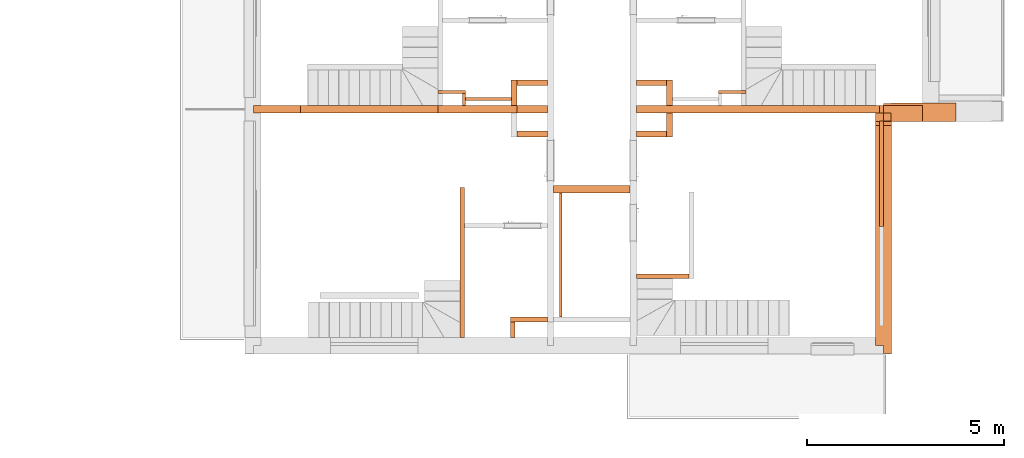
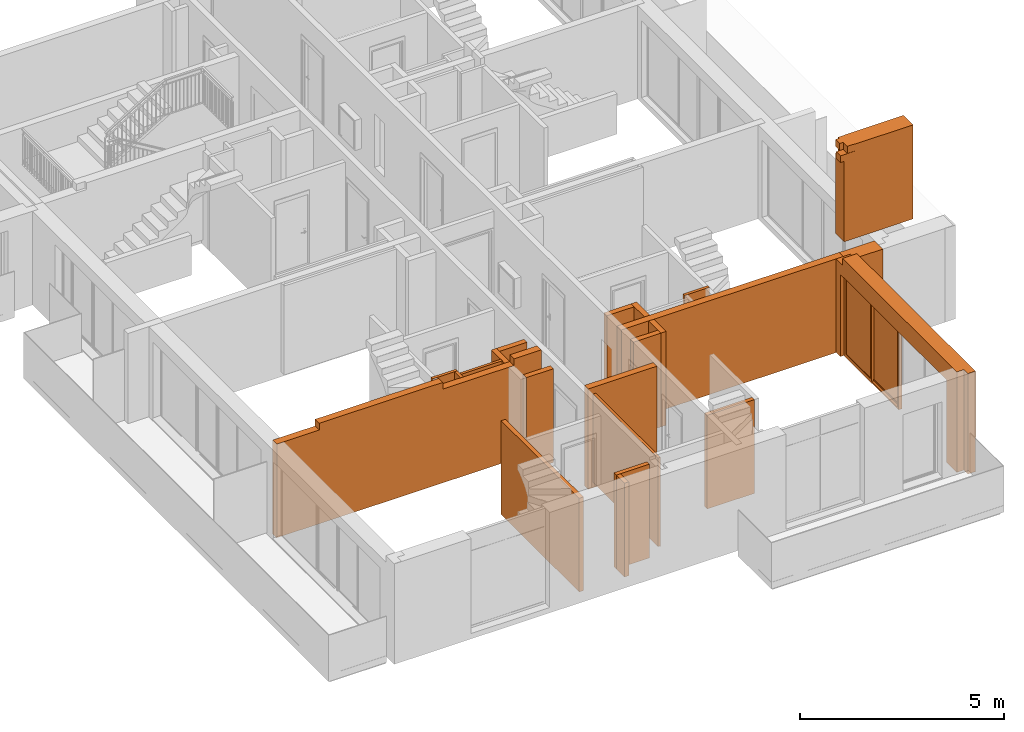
# One storey, part 58 of 61: 23 proxies, 2 openings.
"""IFC2X3 building model written with IfcOpenShell, lengths in millimetres."""

import ifcopenshell
import ifcopenshell.guid

model = None  # the IFC model being written
_history = None  # IfcOwnerHistory: only IFC2X3 demands one
_inside = {}  # id of a spatial element -> (the spatial element, [elements in it])
_under = {}  # id of a project, library or spatial element -> (it, [spatial elements below it])
_declared = {}  # id of a project -> (the project, [libraries it declares])
_typed = {}  # id of a type object -> (the type object, [elements of that type])
_made_of = {}  # id of a material, layer set ... -> (it, [elements and type objects made of it])


def new_model(schema):
    """Start an empty IFC model of exactly this schema.

    Asked for "IFC4X3", IfcOpenShell would pick the latest addendum, in which some entities
    have other attributes; the version numbers below select the first issue.
    IFC2X3 requires an IfcOwnerHistory on every rooted entity: one is made here for all.
    """
    global model, _history
    if schema == "IFC4X3":
        model = ifcopenshell.file(schema_version=(4, 3, 0, 0))
    else:
        model = ifcopenshell.file(schema=schema)
    _inside.clear()
    _under.clear()
    _declared.clear()
    _typed.clear()
    _made_of.clear()
    _history = None
    if model.schema == "IFC2X3":
        org = make("IfcOrganization", Name="unknown")
        user = make(
            "IfcPersonAndOrganization",
            ThePerson=make("IfcPerson", FamilyName="unknown"),
            TheOrganization=org,
        )
        app = make(
            "IfcApplication",
            ApplicationDeveloper=org,
            Version="unknown",
            ApplicationFullName="unknown",
            ApplicationIdentifier="unknown",
        )
        _history = make(
            "IfcOwnerHistory",
            OwningUser=user,
            OwningApplication=app,
            ChangeAction="ADDED",
            CreationDate=0,
        )
    return model


def make(cls, **values):
    """One entity of the class cls with the attributes given. An attribute that is None is left unset."""
    return model.create_entity(
        cls, **{name: value for name, value in values.items() if value is not None}
    )


def entity(cls, *values):
    """Any entity or typed value of the class cls, its attributes in the order of the schema. None: left unset."""
    e = model.create_entity(cls)
    for i, value in enumerate(values):
        if value is not None:
            e[i] = value
    return e


def rooted(cls, **values):
    """An entity with a GlobalId (a new one), such as an element, a storey or a relation."""
    return make(cls, GlobalId=ifcopenshell.guid.new(), OwnerHistory=_history, **values)


def si_unit(unit_type, name, prefix=None):
    """IfcSIUnit, for example si_unit("LENGTHUNIT", "METRE", prefix="MILLI")."""
    return make("IfcSIUnit", UnitType=unit_type, Prefix=prefix, Name=name)


def converted_unit(unit_type, name, factor, base, dimensions=None, offset=None):
    """IfcConversionBasedUnit, such as the inch: factor (a typed value) times the base unit."""
    return make(
        "IfcConversionBasedUnit"
        if offset is None
        else "IfcConversionBasedUnitWithOffset",
        ConversionOffset=offset,
        Dimensions=None
        if dimensions is None
        else entity("IfcDimensionalExponents", *dimensions),
        UnitType=unit_type,
        Name=name,
        ConversionFactor=make(
            "IfcMeasureWithUnit", ValueComponent=factor, UnitComponent=base
        ),
    )


def derived_unit(unit_type, elements):
    """IfcDerivedUnit: a product of units, each with its exponent."""
    return make(
        "IfcDerivedUnit",
        Elements=[
            make("IfcDerivedUnitElement", Unit=unit, Exponent=power)
            for unit, power in elements
        ],
        UnitType=unit_type,
    )


def money_unit(currency):
    """IfcMonetaryUnit."""
    return make("IfcMonetaryUnit", Currency=currency)


def assignment(units):
    """IfcUnitAssignment: the units of a project."""
    return None if units is None else make("IfcUnitAssignment", Units=units)


def point(xyz):
    """IfcCartesianPoint."""
    return None if xyz is None else make("IfcCartesianPoint", Coordinates=xyz)


def direction(xyz):
    """IfcDirection."""
    return None if xyz is None else make("IfcDirection", DirectionRatios=xyz)


def frame(location, z_axis=None, x_axis=None):
    """IfcAxis2Placement3D, a coordinate frame: its origin and axes. An axis left out is left unset."""
    return make(
        "IfcAxis2Placement3D",
        Location=point(location),
        Axis=direction(z_axis),
        RefDirection=direction(x_axis),
    )


def frame_2d(location, x_axis=None):
    """IfcAxis2Placement2D, a coordinate frame in the plane: its origin and x axis."""
    return make(
        "IfcAxis2Placement2D", Location=point(location), RefDirection=direction(x_axis)
    )


def origin_with_axes():
    """The frame at (0, 0, 0) with the z axis (0, 0, 1) and the x axis (1, 0, 0) written out."""
    return frame((0.0, 0.0, 0.0), z_axis=(0.0, 0.0, 1.0), x_axis=(1.0, 0.0, 0.0))


def origin_2d_with_axis():
    """The frame at (0, 0) in the plane with the x axis (1, 0) written out."""
    return frame_2d((0.0, 0.0), x_axis=(1.0, 0.0))


def place(relative_to, where):
    """IfcLocalPlacement: puts the frame where relative to a parent placement (None: the world)."""
    return make(
        "IfcLocalPlacement", PlacementRelTo=relative_to, RelativePlacement=where
    )


def context(
    kind, dimensions, precision=None, world=None, true_north=None, identifier=None
):
    """IfcGeometricRepresentationContext, for example the 3D "Model" context."""
    return make(
        "IfcGeometricRepresentationContext",
        ContextIdentifier=identifier,
        ContextType=kind,
        CoordinateSpaceDimension=dimensions,
        Precision=precision,
        WorldCoordinateSystem=world,
        TrueNorth=true_north,
    )


def subcontext(parent, identifier, kind, view, scale=None):
    """IfcGeometricRepresentationSubContext, for example "Body" below "Model"."""
    return make(
        "IfcGeometricRepresentationSubContext",
        ContextIdentifier=identifier,
        ContextType=kind,
        ParentContext=parent,
        TargetScale=scale,
        TargetView=view,
    )


def project(units=None, contexts=None):
    """IfcProject with its units and contexts."""
    return rooted(
        "IfcProject",
        Name="project",
        RepresentationContexts=contexts,
        UnitsInContext=assignment(units),
    )


def spatial(cls, under=None, at=None, **own):
    """A site, building, storey or space (cls), placed at a placement, below another one or the project."""
    s = rooted(cls, ObjectPlacement=at, **own)
    if under is not None:
        _under.setdefault(under.id(), (under, []))[1].append(s)
    return s


def profile(cls, at=None, kind="AREA", **sizes):
    """A parametric profile (cls). Its sizes go by their IFC names, for example OverallWidth=200.0."""
    return make(cls, ProfileType=kind, Position=at, **sizes)


def rectangle(**sizes):
    """IfcRectangleProfileDef."""
    return profile("IfcRectangleProfileDef", **sizes)


def extrude(swept, where, along, depth):
    """IfcExtrudedAreaSolid: the profile swept, set in the frame where, extruded along a direction by depth."""
    return make(
        "IfcExtrudedAreaSolid",
        SweptArea=swept,
        Position=where,
        ExtrudedDirection=direction(along),
        Depth=depth,
    )


def faces_of(points, faces, orient=None, outer=None):
    """IfcFace entities. A face is a list of loops; a loop is a list of indices into points, from 0.

    orient and outer hold one flag for each loop. By default every Orientation is true, the
    first loop of a face is its IfcFaceOuterBound and the others are IfcFaceBound.
    """
    made = []
    for i, loops in enumerate(faces):
        bounds = []
        for j, loop in enumerate(loops):
            is_outer = j == 0 if outer is None else outer[i][j]
            bounds.append(
                make(
                    "IfcFaceOuterBound" if is_outer else "IfcFaceBound",
                    Bound=make("IfcPolyLoop", Polygon=[points[k] for k in loop]),
                    Orientation=True if orient is None else orient[i][j],
                )
            )
        made.append(make("IfcFace", Bounds=bounds))
    return made


def open_shell(faces, orient=None, outer=None):
    """The faces of one IfcOpenShell. surface_model builds it on its shared points."""
    return ("IfcOpenShell", faces, orient, outer)


def faceted_brep(points, faces, orient=None, outer=None, voids=None):
    """IfcFacetedBrep: a solid bounded by flat faces; with voids (closed shells), ...WithVoids."""
    shared = [point(p) for p in points]
    hull = make("IfcClosedShell", CfsFaces=faces_of(shared, faces, orient, outer))
    if voids is None:
        return make("IfcFacetedBrep", Outer=hull)
    return make(
        "IfcFacetedBrepWithVoids",
        Outer=hull,
        Voids=[
            make(cls, CfsFaces=faces_of(shared, fs, o, b)) for cls, fs, o, b in voids
        ],
    )


def surface_model(cls, points, shells):
    """IfcFaceBasedSurfaceModel or IfcShellBasedSurfaceModel (cls): surfaces that need not close."""
    shared = [point(p) for p in points]
    made = [make(c, CfsFaces=faces_of(shared, fs, o, b)) for c, fs, o, b in shells]
    if cls == "IfcFaceBasedSurfaceModel":
        return make(cls, FbsmFaces=made)
    return make(cls, SbsmBoundary=made)


def shape(context_of_items, identifier, shape_type, items):
    """IfcShapeRepresentation: the items that make up one representation, for example the "Body"."""
    return make(
        "IfcShapeRepresentation",
        ContextOfItems=context_of_items,
        RepresentationIdentifier=identifier,
        RepresentationType=shape_type,
        Items=items,
    )


def material(Name=None, Category=None):
    """IfcMaterial."""
    return make("IfcMaterial", Name=Name, Category=Category)


def material_list(materials):
    """IfcMaterialList."""
    return make("IfcMaterialList", Materials=materials)


def made_of(thing, what):
    """Note that an element or type object is made of a material, layer set ...; save() writes the relation."""
    if what is not None:
        _made_of.setdefault(what.id(), (what, []))[1].append(thing)
    return thing


def type_object(cls, material=None, **own):
    """A type object (cls), such as IfcWallType, which elements share."""
    return made_of(rooted(cls, **own), material)


def element(
    cls,
    number,
    at=None,
    inside=None,
    cuts=None,
    type_object=None,
    material=None,
    context=None,
    identifier="Body",
    shape_type=None,
    held_by="IfcProductDefinitionShape",
    body=None,
    shapes=None,
    **own,
):
    """One element of the class cls, such as IfcWall. Its Tag is "e" and its number.

    at: its placement. inside: the storey or other place that contains it. cuts: it is an
    opening in that element (IfcRelVoidsElement). A single representation is given by context,
    identifier, shape_type and body (its items); several are given by shapes. held_by: the class
    of the entity that holds the representations. save() writes the other relations.
    """
    e = rooted(cls, Tag="e%d" % number, ObjectPlacement=at, **own)
    if body is not None:
        shapes = [shape(context, identifier, shape_type, body)]
    if shapes is not None:
        e.Representation = make(held_by, Representations=shapes)
    if inside is not None:
        _inside.setdefault(inside.id(), (inside, []))[1].append(e)
    if cuts is not None:
        rooted(
            "IfcRelVoidsElement", RelatingBuildingElement=cuts, RelatedOpeningElement=e
        )
    if type_object is not None:
        _typed.setdefault(type_object.id(), (type_object, []))[1].append(e)
    return made_of(e, material)


def fill(opening, filler):
    """IfcRelFillsElement: the door or window that sits in an opening."""
    return rooted(
        "IfcRelFillsElement",
        RelatingOpeningElement=opening,
        RelatedBuildingElement=filler,
    )


def aggregate(whole, parts):
    """IfcRelAggregates: a whole, such as a stair, and the parts it consists of."""
    return rooted("IfcRelAggregates", RelatingObject=whole, RelatedObjects=parts)


def save(model, path):
    """Write the relations noted so far, then the file.

    IfcRelAggregates (storeys below a building ...), IfcRelContainedInSpatialStructure (elements
    in a storey), IfcRelDefinesByType, IfcRelAssociatesMaterial and IfcRelDeclares: one each for
    every whole, place, type object, material and project.
    """
    for whole, parts in _under.values():
        aggregate(whole, parts)
    for where, things in _inside.values():
        rooted(
            "IfcRelContainedInSpatialStructure",
            RelatedElements=things,
            RelatingStructure=where,
        )
    for kind, things in _typed.values():
        rooted("IfcRelDefinesByType", RelatedObjects=things, RelatingType=kind)
    for what, things in _made_of.values():
        rooted("IfcRelAssociatesMaterial", RelatedObjects=things, RelatingMaterial=what)
    for by, libraries in _declared.values():
        rooted("IfcRelDeclares", RelatingContext=by, RelatedDefinitions=libraries)
    model.write(path)


model = new_model("IFC2X3")

# Units and contexts
model_context = context("Model", 3, precision=0.01, world=origin_with_axes(), true_north=direction((0.34421633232, 0.938890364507)))
body_context = subcontext(model_context, "Body", "Model", "MODEL_VIEW")
ifc_project = project(units=[si_unit("LENGTHUNIT", "METRE", prefix="MILLI"), si_unit("AREAUNIT", "SQUARE_METRE"), si_unit("VOLUMEUNIT", "CUBIC_METRE"), converted_unit("PLANEANGLEUNIT", "DEGREE", entity("IfcPlaneAngleMeasure", 0.0174532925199), si_unit("PLANEANGLEUNIT", "RADIAN"), dimensions=[0, 0, 0, 0, 0, 0, 0]), si_unit("SOLIDANGLEUNIT", "STERADIAN"), money_unit("USD"), converted_unit("TIMEUNIT", "Year", entity("IfcTimeMeasure", 31556926.0), si_unit("TIMEUNIT", "SECOND"), dimensions=[0, 0, 1, 0, 0, 0, 0]), si_unit("MASSUNIT", "GRAM", prefix="KILO"), si_unit("THERMODYNAMICTEMPERATUREUNIT", "DEGREE_CELSIUS"), si_unit("LUMINOUSINTENSITYUNIT", "LUMEN"), si_unit("ENERGYUNIT", "JOULE", prefix="MEGA"), derived_unit("THERMALCONDUCTANCEUNIT", [(si_unit("POWERUNIT", "WATT"), 1), (si_unit("LENGTHUNIT", "METRE"), -1), (si_unit("THERMODYNAMICTEMPERATUREUNIT", "KELVIN"), -1)]), derived_unit("SPECIFICHEATCAPACITYUNIT", [(si_unit("ENERGYUNIT", "JOULE"), 1), (si_unit("MASSUNIT", "GRAM", prefix="KILO"), -1), (si_unit("THERMODYNAMICTEMPERATUREUNIT", "KELVIN"), -1)]), derived_unit("MASSDENSITYUNIT", [(si_unit("MASSUNIT", "GRAM", prefix="KILO"), 1), (si_unit("VOLUMEUNIT", "CUBIC_METRE"), -1)])], contexts=[model_context])

# Site, building, storey
site_placement = place(None, origin_with_axes())
site = spatial("IfcSite", under=ifc_project, at=site_placement, Name="USTRONIE MORSKIE", CompositionType="ELEMENT")
building_placement = place(site_placement, origin_with_axes())
building = spatial("IfcBuilding", under=site, at=building_placement, Name="Budynek", CompositionType="ELEMENT")
storey_placement = place(building_placement, frame((0.0, 0.0, 13000.0), z_axis=(0.0, 0.0, 1.0), x_axis=(1.0, 0.0, 0.0)))
storey = spatial("IfcBuildingStorey", under=building, at=storey_placement, Name="PIĘTRO 4", CompositionType="ELEMENT", Elevation=13000.0)

# Proxies
ifc_material_1 = material(Name="Bloczki silikatowe")
building_element_proxy_type_1 = type_object("IfcBuildingElementProxyType", Name="Bloczki silikatowe 120", PredefinedType="NOTDEFINED")
proxy_1_placement = place(storey_placement, frame((415117.920919, 709701.199036, -160.0), z_axis=(0.0, 0.0, 1.0), x_axis=(0.0, -1.0, 0.0)))
element("IfcBuildingElementProxy", 1, at=proxy_1_placement, inside=storey, type_object=building_element_proxy_type_1, material=ifc_material_1, Name="SW-04", context=body_context, shape_type="Brep", body=[
    faceted_brep([(400.0, -120.0, 2800.0), (400.0, 0.0, 2800.0), (0.0, 0.0, 2800.0), (0.0, -120.0, 2800.0), (400.0, -120.0, 0.0), (400.0, 0.0, 0.0), (0.0, 0.0, 0.0), (0.0, -120.0, 0.0)], [[[0, 1, 2, 3]], [[1, 0, 4, 5]], [[1, 5, 6, 2]], [[7, 3, 2, 6]], [[4, 0, 3, 7]], [[5, 4, 7, 6]]]),
])
proxy_2_placement = place(storey_placement, frame((419597.920919, 710861.199036, -160.0), z_axis=(0.0, 0.0, 1.0), x_axis=(-1.0, 0.0, 0.0)))
element("IfcBuildingElementProxy", 2, at=proxy_2_placement, inside=storey, type_object=building_element_proxy_type_1, material=ifc_material_1, Name="SW-04", context=body_context, shape_type="Brep", body=[
    faceted_brep([(1400.0, 59.9999999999, 0.0), (1400.0, -59.9999999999, 0.0), (60.0, -59.9999999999, 0.0), (60.0, 59.9999999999, 0.0), (1400.0, 59.9999999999, 2800.0), (1400.0, -59.9999999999, 2800.0), (60.0, -59.9999999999, 2800.0), (60.0, 59.9999999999, 2800.0)], [[[0, 1, 2, 3]], [[1, 0, 4, 5]], [[1, 5, 6, 2]], [[7, 3, 2, 6]], [[4, 0, 3, 7]], [[5, 4, 7, 6]]]),
])
proxy_3_placement = place(storey_placement, frame((413777.920919, 709201.199036, -160.0), z_axis=(0.0, 0.0, 1.0), x_axis=(0.0, 1.0, 0.0)))
element("IfcBuildingElementProxy", 3, at=proxy_3_placement, inside=storey, type_object=building_element_proxy_type_1, material=ifc_material_1, Name="SW-04", context=body_context, shape_type="Brep", body=[
    faceted_brep([(3919.99999956, 60.0, 0.0), (3919.99999956, 60.0, 2800.0), (3919.99999956, -60.0, 2800.0), (3919.99999956, -60.0, 0.0), (100.0, 59.9999811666, 2800.0), (1600.0000285, 59.9999811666, 2800.0), (100.0, 60.0, 0.0), (100.0, -60.0, 2800.0), (100.0, -60.0, 0.0)], [[[0, 1, 2, 3]], [[4, 5, 1, 0, 6]], [[7, 2, 1, 5, 4]], [[3, 2, 7, 8]], [[8, 6, 0, 3]], [[8, 7, 4, 6]]]),
])
proxy_4_placement = place(storey_placement, frame((416017.920919, 709701.199036, -160.0), z_axis=(0.0, 0.0, 1.0), x_axis=(-1.0, 0.0, 0.0)))
element("IfcBuildingElementProxy", 4, at=proxy_4_placement, inside=storey, type_object=building_element_proxy_type_1, material=ifc_material_1, Name="SW-04", context=body_context, shape_type="Brep", body=[
    faceted_brep([(1020.0, 0.0, 2800.0), (80.0, 0.0, 2800.0), (80.0, -120.0, 2800.0), (1020.0, -120.0, 2800.0), (1020.0, 0.0, 0.0), (80.0, 0.0, 0.0), (80.0, -120.0, 0.0), (1020.0, -120.0, 0.0)], [[[0, 1, 2, 3]], [[4, 5, 1, 0]], [[5, 6, 2, 1]], [[3, 2, 6, 7]], [[7, 4, 0, 3]], [[7, 6, 5, 4]]]),
])
ifc_material_2 = material(Name="Beton konstrukcyjny B25")
ifc_material_3 = material(Name="Wełna ELEW")
ifc_material_4 = material(Name="Tynk zewnętrzny")
ifc_material_list_1 = material_list([ifc_material_2, ifc_material_3, ifc_material_4])
building_element_proxy_type_2 = type_object("IfcBuildingElementProxyType", Name="20+20 410", PredefinedType="NOTDEFINED")
proxy_5_placement = place(storey_placement, frame((424367.920919, 715101.199036, -160.0), z_axis=(0.0, 0.0, 1.0), x_axis=(1.0, 0.0, 0.0)))
element("IfcBuildingElementProxy", 5, at=proxy_5_placement, inside=storey, type_object=building_element_proxy_type_2, material=ifc_material_list_1, Name="SZ-01", context=body_context, shape_type="Brep", body=[
    faceted_brep([(100.0, 100.0, 0.0), (100.0, 100.0, 2800.0), (1100.0, 100.0, 2799.99999792), (1100.0, 100.0, 0.0), (100.0, -100.0, 2800.0), (100.0, -100.0, 0.0), (1100.0, -100.0, 2799.99999792), (1100.0, -100.0, 0.0)], [[[0, 1, 2, 3]], [[4, 1, 0, 5]], [[1, 4, 6, 2]], [[3, 2, 6, 7]], [[5, 0, 3, 7]], [[4, 5, 7, 6]]]),
    faceted_brep([(300.0, -100.0, 0.0), (300.0, -100.0, 2800.0), (1100.0, -100.0, 2799.99999799), (1100.0, -100.0, 0.0), (300.0, -300.0, 2800.0), (300.0, -300.0, 0.0), (1100.0, -300.0, 2799.99999799), (1100.0, -300.0, 0.0)], [[[0, 1, 2, 3]], [[4, 1, 0, 5]], [[1, 4, 6, 2]], [[3, 2, 6, 7]], [[5, 0, 3, 7]], [[4, 5, 7, 6]]]),
    faceted_brep([(310.0, -300.0, 0.0), (310.0, -300.0, 2800.0), (1100.0, -300.0, 2799.99999799), (1100.0, -300.0, 0.0), (310.0, -310.0, 2800.0), (310.0, -310.0, 0.0), (1100.0, -310.0, 2799.99999799), (1100.0, -310.0, 0.0)], [[[0, 1, 2, 3]], [[4, 1, 0, 5]], [[1, 4, 6, 2]], [[3, 2, 6, 7]], [[5, 0, 3, 7]], [[4, 5, 7, 6]]]),
])

# Proxies, openings
ifc_material_list_2 = material_list([ifc_material_4, ifc_material_3, ifc_material_2])
proxy_6_placement = place(storey_placement, frame((424367.920919, 715101.199036, -160.0), z_axis=(0.0, 0.0, 1.0), x_axis=(0.0, -1.0, 0.0)))
proxy_6 = element("IfcBuildingElementProxy", 6, at=proxy_6_placement, inside=storey, type_object=building_element_proxy_type_2, material=ifc_material_list_2, Name="SZ-01", context=body_context, shape_type="Brep", body=[
    faceted_brep([(300.0, 300.0, 2800.0), (300.0, 310.0, 2800.0), (300.0, 310.0, 0.0), (300.0, 300.0, 0.0), (410.0, 310.0, 2800.0), (410.0, 300.0, 2800.0), (410.0, 310.0, 2999.99999799), (6210.0, 310.0, 2999.99999802), (6210.0, 310.0, 0.0), (6210.0, 300.0, 0.0), (6210.0, 300.0, 2999.99999802), (410.0, 300.0, 2999.99999799)], [[[0, 1, 2, 3]], [[4, 1, 0, 5]], [[4, 6, 7, 8, 2, 1]], [[3, 2, 8, 9]], [[5, 0, 3, 9, 10, 11]], [[11, 6, 4, 5]], [[6, 11, 10, 7]], [[8, 7, 10, 9]]]),
    faceted_brep([(100.0, 100.0, 0.0), (100.0, 100.0, 2800.0), (100.0, 300.0, 2800.0), (100.0, 300.0, 0.0), (410.0, 100.0, 2999.99999799), (410.0, 100.0, 2800.0), (6200.0, 100.0, 0.0), (6200.0, 100.0, 2999.99999802), (410.0, 300.0, 2800.0), (410.0, 300.0, 2999.99999799), (6200.0, 300.0, 2999.99999802), (6200.0, 300.0, 0.0)], [[[0, 1, 2, 3]], [[4, 5, 1, 0, 6, 7]], [[5, 8, 2, 1]], [[2, 8, 9, 10, 11, 3]], [[6, 0, 3, 11]], [[5, 4, 9, 8]], [[6, 11, 10, 7]], [[10, 9, 4, 7]]]),
    faceted_brep([(100.0, -100.0, 2800.0), (100.0, 100.0, 2800.0), (100.0, 100.0, 0.0), (100.0, -100.0, 0.0), (410.0, 100.0, 2800.0), (410.0, -100.0, 2800.0), (410.0, 100.0, 2999.99999799), (6000.0, 100.0, 2999.99999808), (6000.0, 100.0, 0.0), (6000.0, -100.0, 0.0), (6000.0, -100.0, 2999.99999808), (410.0, -100.0, 2999.99999799)], [[[0, 1, 2, 3]], [[4, 1, 0, 5]], [[4, 6, 7, 8, 2, 1]], [[3, 2, 8, 9]], [[5, 0, 3, 9, 10, 11]], [[11, 6, 4, 5]], [[6, 11, 10, 7]], [[8, 7, 10, 9]]]),
])
opening_1_placement = place(proxy_6_placement, frame((4240.0, 0.0, 0.0), z_axis=(0.0, 0.0, 1.0), x_axis=(1.0, 0.0, 0.0)))
element("IfcOpeningElement", 7, at=opening_1_placement, cuts=proxy_6, Name="Wz.04", context=body_context, shape_type="SweptSolid", body=[
    extrude(rectangle(XDim=2520.0, YDim=2460.0, at=origin_2d_with_axis()), frame((0.0, 0.0, 1230.0), z_axis=(0.0, 1.0, 0.0), x_axis=(1.0, 0.0, 0.0)), (0.0, 0.0, 1.0), 720.0),
    extrude(rectangle(XDim=2520.0, YDim=2460.0, at=origin_2d_with_axis()), frame((0.0, 0.0, 1230.0), z_axis=(0.0, -1.0, 0.0), x_axis=(1.0, 0.0, 0.0)), (0.0, 0.0, 1.0), 510.0),
])
opening_2_placement = place(proxy_6_placement, frame((1640.0, 0.0, 0.0), z_axis=(0.0, 0.0, 1.0), x_axis=(1.0, 0.0, 0.0)))
opening_2 = element("IfcOpeningElement", 8, at=opening_2_placement, cuts=proxy_6, Name="Wz.04", context=body_context, shape_type="SweptSolid", body=[
    extrude(rectangle(XDim=2680.0, YDim=2460.0, at=origin_2d_with_axis()), frame((0.0, 0.0, 1230.0), z_axis=(0.0, -1.0, 0.0), x_axis=(-1.0, 0.0, 0.0)), (0.0, 0.0, -1.0), 720.0),
    extrude(rectangle(XDim=2680.0, YDim=2460.0, at=origin_2d_with_axis()), frame((0.0, 0.0, 1230.0), z_axis=(0.0, 1.0, 0.0), x_axis=(-1.0, 0.0, 0.0)), (0.0, 0.0, -1.0), 510.0),
])
building_element_proxy_type_3 = type_object("IfcBuildingElementProxyType", Name="Okno przesuwne, 2-skrzydłowe 23", PredefinedType="NOTDEFINED")
proxy_7_placement = place(opening_2_placement, frame((1340.0, 0.0, 0.0), z_axis=(0.0, 0.0, 1.0), x_axis=(-1.0, 0.0, 0.0)))
proxy_7 = element("IfcBuildingElementProxy", 9, at=proxy_7_placement, inside=storey, type_object=building_element_proxy_type_3, Name="Wz.04", context=body_context, shape_type="SurfaceModel", body=[
    faceted_brep([(50.0, -100.0, 50.0), (50.0, 0.0, 50.0), (50.0, 0.0, 2410.0), (50.0, -100.0, 2410.0), (0.0, -100.0, 50.0), (0.0, 0.0, 50.0), (0.0, 0.0, 2410.0), (0.0, -100.0, 2410.0)], [[[0, 1, 2, 3]], [[4, 5, 1, 0]], [[1, 5, 6, 2]], [[3, 2, 6, 7]], [[0, 3, 7, 4]], [[7, 6, 5, 4]]]),
    faceted_brep([(2680.0, -100.0, 50.0), (2680.0, 0.0, 50.0), (2680.0, 0.0, 2410.0), (2680.0, -100.0, 2410.0), (2630.0, -100.0, 50.0), (2630.0, 0.0, 50.0), (2630.0, 0.0, 2410.0), (2630.0, -100.0, 2410.0)], [[[0, 1, 2, 3]], [[4, 5, 1, 0]], [[1, 5, 6, 2]], [[3, 2, 6, 7]], [[0, 3, 7, 4]], [[7, 6, 5, 4]]]),
    faceted_brep([(2680.0, -100.0, 50.0), (2680.0, 0.0, 50.0), (2630.0, 0.0, 50.0), (2630.0, -100.0, 50.0), (2680.0, -100.0, 0.0), (2680.0, 0.0, 0.0), (0.0, 0.0, 0.0), (0.0, 0.0, 50.0), (50.0, 0.0, 50.0), (50.0, -100.0, 50.0), (0.0, -100.0, 50.0), (0.0, -100.0, 0.0)], [[[0, 1, 2, 3]], [[4, 5, 1, 0]], [[1, 5, 6, 7, 8, 2]], [[3, 2, 8, 9]], [[0, 3, 9, 10, 11, 4]], [[11, 6, 5, 4]], [[10, 7, 6, 11]], [[9, 8, 7, 10]]]),
    faceted_brep([(2680.0, -100.0, 2460.0), (2680.0, 0.0, 2460.0), (0.0, 0.0, 2460.0), (0.0, -100.0, 2460.0), (2680.0, -100.0, 2410.0), (2680.0, 0.0, 2410.0), (2630.0, 0.0, 2410.0), (50.0, 0.0, 2410.0), (0.0, 0.0, 2410.0), (0.0, -100.0, 2410.0), (50.0, -100.0, 2410.0), (2630.0, -100.0, 2410.0)], [[[0, 1, 2, 3]], [[4, 5, 1, 0]], [[1, 5, 6, 7, 8, 2]], [[3, 2, 8, 9]], [[0, 3, 9, 10, 11, 4]], [[11, 6, 5, 4]], [[10, 7, 6, 11]], [[9, 8, 7, 10]]]),
    faceted_brep([(100.0, -100.0, 2360.0), (100.0, -50.0, 2360.0), (50.0, -50.0, 2360.0), (50.0, -100.0, 2360.0), (100.0, -100.0, 100.0), (100.0, -50.0, 100.0), (50.0, -50.0, 100.0), (50.0, -100.0, 100.0)], [[[0, 1, 2, 3]], [[4, 5, 1, 0]], [[1, 5, 6, 2]], [[3, 2, 6, 7]], [[0, 3, 7, 4]], [[7, 6, 5, 4]]]),
    faceted_brep([(1315.0, -100.0, 100.0), (1315.0, -50.0, 100.0), (1365.0, -50.0, 100.0), (1365.0, -100.0, 100.0), (1315.0, -100.0, 2360.0), (1315.0, -50.0, 2360.0), (1365.0, -50.0, 2360.0), (1365.0, -100.0, 2360.0)], [[[0, 1, 2, 3]], [[4, 5, 1, 0]], [[1, 5, 6, 2]], [[3, 2, 6, 7]], [[0, 3, 7, 4]], [[7, 6, 5, 4]]]),
    faceted_brep([(1365.0, -100.0, 50.0), (1365.0, -50.0, 50.0), (1365.0, -50.0, 100.0), (1365.0, -100.0, 100.0), (50.0, -100.0, 50.0), (50.0, -50.0, 50.0), (50.0, -50.0, 100.0), (100.0, -50.0, 100.0), (1315.0, -50.0, 100.0), (1315.0, -100.0, 100.0), (100.0, -100.0, 100.0), (50.0, -100.0, 100.0)], [[[0, 1, 2, 3]], [[4, 5, 1, 0]], [[1, 5, 6, 7, 8, 2]], [[3, 2, 8, 9]], [[0, 3, 9, 10, 11, 4]], [[11, 6, 5, 4]], [[10, 7, 6, 11]], [[9, 8, 7, 10]]]),
    faceted_brep([(50.0, -100.0, 2410.0), (50.0, -50.0, 2410.0), (50.0, -50.0, 2360.0), (50.0, -100.0, 2360.0), (1365.0, -100.0, 2410.0), (1365.0, -50.0, 2410.0), (1365.0, -50.0, 2360.0), (1315.0, -50.0, 2360.0), (100.0, -50.0, 2360.0), (100.0, -100.0, 2360.0), (1315.0, -100.0, 2360.0), (1365.0, -100.0, 2360.0)], [[[0, 1, 2, 3]], [[4, 5, 1, 0]], [[1, 5, 6, 7, 8, 2]], [[3, 2, 8, 9]], [[0, 3, 9, 10, 11, 4]], [[11, 6, 5, 4]], [[10, 7, 6, 11]], [[9, 8, 7, 10]]]),
    surface_model("IfcShellBasedSurfaceModel", [(100.0, -85.0, 100.0), (1315.0, -85.0, 100.0), (1315.0, -85.0, 2360.0), (100.0, -85.0, 2360.0)], [open_shell([[[0, 1, 2, 3]]])]),
    surface_model("IfcShellBasedSurfaceModel", [(100.0, -65.0, 100.0), (100.0, -65.0, 2360.0), (1315.0, -65.0, 2360.0), (1315.0, -65.0, 100.0)], [open_shell([[[0, 1, 2, 3]]])]),
    faceted_brep([(1365.0, -50.0, 2360.0), (1365.0, 0.0, 2360.0), (1315.0, 0.0, 2360.0), (1315.0, -50.0, 2360.0), (1365.0, -50.0, 100.0), (1365.0, 0.0, 100.0), (1315.0, 0.0, 100.0), (1315.0, -50.0, 100.0)], [[[0, 1, 2, 3]], [[4, 5, 1, 0]], [[1, 5, 6, 2]], [[3, 2, 6, 7]], [[0, 3, 7, 4]], [[7, 6, 5, 4]]]),
    faceted_brep([(2580.0, -50.0, 100.0), (2580.0, 0.0, 100.0), (2630.0, 0.0, 100.0), (2630.0, -50.0, 100.0), (2580.0, -50.0, 2360.0), (2580.0, 0.0, 2360.0), (2630.0, 0.0, 2360.0), (2630.0, -50.0, 2360.0)], [[[0, 1, 2, 3]], [[4, 5, 1, 0]], [[1, 5, 6, 2]], [[3, 2, 6, 7]], [[0, 3, 7, 4]], [[7, 6, 5, 4]]]),
    faceted_brep([(2630.0, -50.0, 50.0), (2630.0, 0.0, 50.0), (2630.0, 0.0, 100.0), (2630.0, -50.0, 100.0), (1315.0, -50.0, 50.0), (1315.0, 0.0, 50.0), (1315.0, 0.0, 100.0), (1365.0, 0.0, 100.0), (2580.0, 0.0, 100.0), (2580.0, -50.0, 100.0), (1365.0, -50.0, 100.0), (1315.0, -50.0, 100.0)], [[[0, 1, 2, 3]], [[4, 5, 1, 0]], [[1, 5, 6, 7, 8, 2]], [[3, 2, 8, 9]], [[0, 3, 9, 10, 11, 4]], [[11, 6, 5, 4]], [[10, 7, 6, 11]], [[9, 8, 7, 10]]]),
    faceted_brep([(1315.0, -50.0, 2410.0), (1315.0, 0.0, 2410.0), (1315.0, 0.0, 2360.0), (1315.0, -50.0, 2360.0), (2630.0, -50.0, 2410.0), (2630.0, 0.0, 2410.0), (2630.0, 0.0, 2360.0), (2580.0, 0.0, 2360.0), (1365.0, 0.0, 2360.0), (1365.0, -50.0, 2360.0), (2580.0, -50.0, 2360.0), (2630.0, -50.0, 2360.0)], [[[0, 1, 2, 3]], [[4, 5, 1, 0]], [[1, 5, 6, 7, 8, 2]], [[3, 2, 8, 9]], [[0, 3, 9, 10, 11, 4]], [[11, 6, 5, 4]], [[10, 7, 6, 11]], [[9, 8, 7, 10]]]),
    surface_model("IfcShellBasedSurfaceModel", [(1365.0, -35.0, 100.0), (2580.0, -35.0, 100.0), (2580.0, -35.0, 2360.0), (1365.0, -35.0, 2360.0)], [open_shell([[[0, 1, 2, 3]]])]),
    surface_model("IfcShellBasedSurfaceModel", [(1365.0, -15.0, 100.0), (1365.0, -15.0, 2360.0), (2580.0, -15.0, 2360.0), (2580.0, -15.0, 100.0)], [open_shell([[[0, 1, 2, 3]]])]),
])
fill(opening_2, proxy_7)

# Proxies
building_element_proxy_type_4 = type_object("IfcBuildingElementProxyType", Name="Bloczki silikatowe 180", PredefinedType="NOTDEFINED")
proxy_8_placement = place(storey_placement, frame((416017.920919, 713071.199036, -160.0), z_axis=(0.0, 0.0, 1.0), x_axis=(1.0, 0.0, 0.0)))
element("IfcBuildingElementProxy", 10, at=proxy_8_placement, inside=storey, type_object=building_element_proxy_type_4, material=ifc_material_1, Name="SW-02", context=body_context, shape_type="Brep", body=[
    faceted_brep([(2020.0, 90.0, 0.0), (80.0000000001, 90.0, 0.0), (80.0000000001, 90.0, 3000.0), (2020.0, 90.0, 3000.0), (2020.0, -90.0, 0.0), (80.0000000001, -90.0, 0.0), (80.0000000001, -90.0, 3000.0), (2020.0, -90.0, 3000.0)], [[[0, 1, 2, 3]], [[4, 5, 1, 0]], [[2, 1, 5, 6]], [[3, 2, 6, 7]], [[4, 0, 3, 7]], [[6, 5, 4, 7]]]),
])
ifc_material_5 = material(Name="-Pustka powietrzna")
ifc_material_6 = material(Name="Płyta GK")
ifc_material_list_3 = material_list([ifc_material_5, ifc_material_6, ifc_material_6])
building_element_proxy_type_5 = type_object("IfcBuildingElementProxyType", Name="330-SD GK 2-warstwy 75", PredefinedType="NOTDEFINED")
proxy_9_placement = place(storey_placement, frame((415027.920919, 715371.197725, -180.0), z_axis=(0.0, 0.0, 1.0), x_axis=(-1.0, 0.0, 0.0)))
element("IfcBuildingElementProxy", 11, at=proxy_9_placement, inside=storey, type_object=building_element_proxy_type_5, material=ifc_material_list_3, Name="Ściana-009", context=body_context, shape_type="Brep", body=[
    faceted_brep([(0.0, 50.0, 180.0), (0.0, 0.0, 180.0), (0.0, 0.0, 2820.0), (0.0, 50.0, 2820.0), (1170.0, 0.0, 180.0), (1170.0, 50.0, 180.0), (1170.0, 0.0, 2820.0), (1170.0, 50.0, 2820.0)], [[[0, 1, 2, 3]], [[4, 1, 0, 5]], [[1, 4, 6, 2]], [[2, 6, 7, 3]], [[5, 0, 3, 7]], [[4, 5, 7, 6]]]),
    faceted_brep([(0.0, 0.0, 165.0), (0.0, -12.5, 165.0), (0.0, -12.5, 2820.0), (0.0, 0.0, 2820.0), (1170.0, -12.5, 165.0), (1170.0, 0.0, 165.0), (1170.0, -12.5, 2820.0), (1170.0, 0.0, 2820.0)], [[[0, 1, 2, 3]], [[4, 1, 0, 5]], [[1, 4, 6, 2]], [[2, 6, 7, 3]], [[5, 0, 3, 7]], [[4, 5, 7, 6]]]),
    faceted_brep([(0.0, -12.5, 165.0), (0.0, -25.0, 165.0), (0.0, -25.0, 2820.0), (0.0, -12.5, 2820.0), (1170.0, -25.0, 165.0), (1170.0, -12.5, 165.0), (1170.0, -25.0, 2820.0), (1170.0, -12.5, 2820.0)], [[[0, 1, 2, 3]], [[4, 1, 0, 5]], [[1, 4, 6, 2]], [[2, 6, 7, 3]], [[5, 0, 3, 7]], [[4, 5, 7, 6]]]),
])
ifc_material_list_4 = material_list([ifc_material_6, ifc_material_6, ifc_material_5])
proxy_10_placement = place(storey_placement, frame((416262.920919, 713071.199036, -160.0), z_axis=(0.0, 0.0, 1.0), x_axis=(0.0, -1.0, 0.0)))
element("IfcBuildingElementProxy", 12, at=proxy_10_placement, inside=storey, type_object=building_element_proxy_type_5, material=ifc_material_list_4, Name="Ściana-009", context=body_context, shape_type="Brep", body=[
    faceted_brep([(3249.99999956, 50.0, 145.0), (90.0, 50.0, 145.0), (90.0, 50.0, 2800.0), (3249.99999956, 50.0, 2800.0), (90.0, 37.5, 145.0), (3249.99999956, 37.5, 145.0), (90.0, 37.5, 2800.0), (3249.99999956, 37.5, 2800.0)], [[[0, 1, 2, 3]], [[4, 1, 0, 5]], [[1, 4, 6, 2]], [[7, 3, 2, 6]], [[5, 0, 3, 7]], [[4, 5, 7, 6]]]),
    faceted_brep([(3249.99999956, 37.5, 145.0), (90.0, 37.5, 145.0), (90.0, 37.5, 2800.0), (3249.99999956, 37.5, 2800.0), (90.0, 25.0, 145.0), (3249.99999956, 25.0, 145.0), (90.0, 25.0, 2800.0), (3249.99999956, 25.0, 2800.0)], [[[0, 1, 2, 3]], [[4, 1, 0, 5]], [[1, 4, 6, 2]], [[7, 3, 2, 6]], [[5, 0, 3, 7]], [[4, 5, 7, 6]]]),
    faceted_brep([(3249.99999956, 25.0, 160.0), (90.0, 25.0, 160.0), (90.0, 25.0, 2800.0), (3249.99999956, 25.0, 2800.0), (90.0, -25.0, 160.0), (3249.99999956, -25.0, 160.0), (90.0, -25.0, 2800.0), (3249.99999956, -25.0, 2800.0)], [[[0, 1, 2, 3]], [[4, 1, 0, 5]], [[1, 4, 6, 2]], [[7, 3, 2, 6]], [[5, 0, 3, 7]], [[4, 5, 7, 6]]]),
])
building_element_proxy_type_6 = type_object("IfcBuildingElementProxyType", Name="Bloczki silikatowe 80", PredefinedType="NOTDEFINED")
proxy_11_placement = place(storey_placement, frame((413817.920919, 715101.199027, -160.0), z_axis=(0.0, 0.0, 1.0), x_axis=(0.0, 1.0, 0.0)))
element("IfcBuildingElementProxy", 13, at=proxy_11_placement, inside=storey, type_object=building_element_proxy_type_6, material=ifc_material_1, Name="Ściana-010", context=body_context, shape_type="Brep", body=[
    faceted_brep([(400.000454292, 40.0, 0.0), (400.000454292, -40.0, 0.0), (100.000000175, -40.0, 0.0), (99.9999998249, 40.0, 0.0), (400.000454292, 40.0, 2800.0), (400.000454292, -40.0, 2800.0), (100.000000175, -40.0, 2800.0), (99.9999998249, 40.0, 2800.0)], [[[0, 1, 2, 3]], [[1, 0, 4, 5]], [[1, 5, 6, 2]], [[7, 3, 2, 6]], [[4, 0, 3, 7]], [[5, 4, 7, 6]]]),
])
proxy_12_placement = place(storey_placement, frame((413217.920919, 715541.199481, -160.0), z_axis=(0.0, 0.0, 1.0), x_axis=(1.0, 0.0, 0.0)))
element("IfcBuildingElementProxy", 14, at=proxy_12_placement, inside=storey, type_object=building_element_proxy_type_6, material=ifc_material_1, Name="Ściana-009", context=body_context, shape_type="Brep", body=[
    faceted_brep([(640.0, 40.0, 0.0), (640.0, -40.0, 0.0), (-60.0, -40.0, 0.0), (-60.0, 40.0, 0.0), (640.0, 40.0, 2800.0), (640.0, -40.0, 2800.0), (-60.0, -40.0, 2800.0), (-60.0, 40.0, 2800.0)], [[[0, 1, 2, 3]], [[1, 0, 4, 5]], [[1, 5, 6, 2]], [[7, 3, 2, 6]], [[4, 0, 3, 7]], [[5, 4, 7, 6]]]),
])
proxy_13_placement = place(storey_placement, frame((420917.920919, 715541.199481, -160.0), z_axis=(0.0, 0.0, 1.0), x_axis=(-1.0, 0.0, 0.0)))
element("IfcBuildingElementProxy", 15, at=proxy_13_placement, inside=storey, type_object=building_element_proxy_type_6, material=ifc_material_1, Name="Ściana-009", context=body_context, shape_type="Brep", body=[
    faceted_brep([(640.0, -40.0, 2800.0), (640.0, 40.0, 2800.0), (-60.0, 40.0, 2800.0), (-60.0, -40.0, 2800.0), (640.0, -40.0, 0.0), (640.0, 40.0, 0.0), (-60.0, 40.0, 0.0), (-60.0, -40.0, 0.0)], [[[0, 1, 2, 3]], [[1, 0, 4, 5]], [[1, 5, 6, 2]], [[7, 3, 2, 6]], [[4, 0, 3, 7]], [[5, 4, 7, 6]]]),
])
building_element_proxy_type_7 = type_object("IfcBuildingElementProxyType", Name="Bloczki silikatowe 150", PredefinedType="NOTDEFINED")
proxy_14_placement = place(storey_placement, frame((419042.92182, 715101.197938, -160.0), z_axis=(0.0, 0.0, 1.0), x_axis=(0.0, -1.0, 0.0)))
element("IfcBuildingElementProxy", 16, at=proxy_14_placement, inside=storey, type_object=building_element_proxy_type_7, material=ifc_material_1, Name="SW-03", context=body_context, shape_type="Brep", body=[
    faceted_brep([(700.000879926, 75.0, 0.0), (700.000879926, -75.0, 0.0), (99.9989021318, -75.0, 0.0), (99.9989021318, 75.0, 0.0), (700.000879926, 75.0, 2800.0), (700.000879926, -75.0, 2800.0), (99.9989021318, -75.0, 2800.0), (99.9989021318, 75.0, 2800.0)], [[[0, 1, 2, 3]], [[1, 0, 4, 5]], [[1, 5, 6, 2]], [[7, 3, 2, 6]], [[4, 0, 3, 7]], [[5, 4, 7, 6]]]),
])
proxy_15_placement = place(storey_placement, frame((415092.920018, 714476.197053, -160.0), z_axis=(0.0, 0.0, 1.0), x_axis=(1.0, 0.0, 0.0)))
element("IfcBuildingElementProxy", 17, at=proxy_15_placement, inside=storey, type_object=building_element_proxy_type_7, material=ifc_material_1, Name="Ściana-009", context=body_context, shape_type="Brep", body=[
    faceted_brep([(845.00090117, -75.0, 2800.0), (845.00090117, 75.0, 2800.0), (75.0, 75.0, 2800.0), (75.0, -75.0, 2800.0), (845.00090117, -75.0, 0.0), (845.00090117, 75.0, 0.0), (75.0, 75.0, 0.0), (75.0, -75.0, 0.0)], [[[0, 1, 2, 3]], [[1, 0, 4, 5]], [[1, 5, 6, 2]], [[7, 3, 2, 6]], [[4, 0, 3, 7]], [[5, 4, 7, 6]]]),
])
proxy_16_placement = place(storey_placement, frame((419042.92182, 714476.197058, -160.0), z_axis=(0.0, 0.0, 1.0), x_axis=(-1.0, 0.0, 0.0)))
element("IfcBuildingElementProxy", 18, at=proxy_16_placement, inside=storey, type_object=building_element_proxy_type_7, material=ifc_material_1, Name="SW-03", context=body_context, shape_type="Brep", body=[
    faceted_brep([(845.00090117, 75.0, 0.0), (845.00090117, -75.0, 0.0), (75.0, -75.0, 0.0), (75.0, 75.0, 0.0), (845.00090117, 75.0, 2800.0), (845.00090117, -75.0, 2800.0), (75.0, -75.0, 2800.0), (75.0, 75.0, 2800.0)], [[[0, 1, 2, 3]], [[1, 0, 4, 5]], [[1, 5, 6, 2]], [[7, 3, 2, 6]], [[4, 0, 3, 7]], [[5, 4, 7, 6]]]),
])
proxy_17_placement = place(storey_placement, frame((415092.920018, 715101.200134, -160.0), z_axis=(0.0, 0.0, 1.0), x_axis=(0.0, 1.0, 0.0)))
element("IfcBuildingElementProxy", 19, at=proxy_17_placement, inside=storey, type_object=building_element_proxy_type_7, material=ifc_material_1, Name="SW-03", context=body_context, shape_type="Brep", body=[
    faceted_brep([(750.000879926, 75.0, 2800.0), (99.998869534, 75.0, 2800.0), (99.998869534, -75.0, 2800.0), (750.000879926, -75.0, 2800.0), (750.000879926, 75.0, 0.0), (99.998869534, 75.0, 0.0), (99.998869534, -75.0, 0.0), (750.000879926, -75.0, 0.0)], [[[0, 1, 2, 3]], [[4, 5, 1, 0]], [[5, 6, 2, 1]], [[3, 2, 6, 7]], [[0, 3, 7, 4]], [[7, 6, 5, 4]]]),
])
proxy_18_placement = place(storey_placement, frame((415092.920018, 715776.201014, -160.0), z_axis=(0.0, 0.0, 1.0), x_axis=(1.0, 0.0, 0.0)))
element("IfcBuildingElementProxy", 20, at=proxy_18_placement, inside=storey, type_object=building_element_proxy_type_7, material=ifc_material_1, Name="SW-03", context=body_context, shape_type="Brep", body=[
    faceted_brep([(845.00090117, 75.0, 0.0), (845.00090117, -75.0, 0.0), (75.0, -75.0, 0.0), (75.0, 75.0, 0.0), (845.00090117, 75.0, 2800.0), (845.00090117, -75.0, 2800.0), (75.0, -75.0, 2800.0), (75.0, 75.0, 2800.0)], [[[0, 1, 2, 3]], [[1, 0, 4, 5]], [[1, 5, 6, 2]], [[7, 3, 2, 6]], [[4, 0, 3, 7]], [[5, 4, 7, 6]]]),
])
proxy_19_placement = place(storey_placement, frame((419042.92182, 715101.200134, -160.0), z_axis=(0.0, 0.0, 1.0), x_axis=(0.0, 1.0, 0.0)))
element("IfcBuildingElementProxy", 21, at=proxy_19_placement, inside=storey, type_object=building_element_proxy_type_7, material=ifc_material_1, Name="SW-03", context=body_context, shape_type="Brep", body=[
    faceted_brep([(750.000879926, 75.0, 2800.0), (99.9989021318, 75.0, 2800.0), (99.9989021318, -75.0, 2800.0), (750.000879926, -75.0, 2800.0), (750.000879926, 75.0, 0.0), (99.9989021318, 75.0, 0.0), (99.9989021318, -75.0, 0.0), (750.000879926, -75.0, 0.0)], [[[0, 1, 2, 3]], [[4, 5, 1, 0]], [[5, 6, 2, 1]], [[3, 2, 6, 7]], [[7, 4, 0, 3]], [[7, 6, 5, 4]]]),
])
proxy_20_placement = place(storey_placement, frame((419042.92182, 715776.201014, -160.0), z_axis=(0.0, 0.0, 1.0), x_axis=(-1.0, 0.0, 0.0)))
element("IfcBuildingElementProxy", 22, at=proxy_20_placement, inside=storey, type_object=building_element_proxy_type_7, material=ifc_material_1, Name="SW-03", context=body_context, shape_type="Brep", body=[
    faceted_brep([(845.00090117, -75.0, 2800.0), (845.00090117, 75.0, 2800.0), (75.0, 75.0, 2800.0), (75.0, -75.0, 2800.0), (845.00090117, -75.0, 0.0), (845.00090117, 75.0, 0.0), (75.0, 75.0, 0.0), (75.0, -75.0, 0.0)], [[[0, 1, 2, 3]], [[1, 0, 4, 5]], [[1, 5, 6, 2]], [[7, 3, 2, 6]], [[4, 0, 3, 7]], [[5, 4, 7, 6]]]),
])
building_element_proxy_type_8 = type_object("IfcBuildingElementProxyType", Name="Beton konstrukcyjny B25 200", PredefinedType="NOTDEFINED")
proxy_21_placement = place(storey_placement, frame((408567.896942, 715101.199004, -160.0), z_axis=(0.0, 0.0, 1.0), x_axis=(1.0, 4.37552525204e-09, 0.0)))
element("IfcBuildingElementProxy", 23, at=proxy_21_placement, inside=storey, type_object=building_element_proxy_type_8, material=ifc_material_2, Name="SW-01", context=body_context, shape_type="Brep", body=[
    faceted_brep([(4590.02399732, 99.9999799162, 2800.0), (6600.02307645, 99.9999711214, 2800.0), (6600.02307645, 99.9999711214, 3000.0), (7370.02397762, 99.9999677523, 3000.0), (7370.02397762, 99.9999677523, 0.0), (-100.000582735, 100.000000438, 0.0), (-100.000582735, 100.000000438, 2800.00000171), (1100.02423834, 99.9999951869, 2800.00000171), (1100.02423834, 99.9999951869, 3000.00000171), (4590.02399732, 99.9999799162, 3000.0), (4590.02399644, -99.9999874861, 2800.0), (6600.02307557, -100.000028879, 2800.0), (6600.02307557, -100.000028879, 3000.0), (7370.02397674, -100.000032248, 3000.0), (7370.02397674, -100.000032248, 0.0), (-100.000977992, -99.9999995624, 0.0), (-100.000977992, -99.9999995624, 2800.00000171), (1100.02423746, -100.000004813, 2800.00000171), (1100.02423746, -100.000004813, 3000.00000171), (4590.02399644, -99.9999874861, 3000.0)], [[[0, 1, 2, 3, 4, 5, 6, 7, 8, 9]], [[10, 11, 1, 0]], [[11, 12, 2, 1]], [[3, 2, 12, 13]], [[14, 4, 3, 13]], [[4, 14, 15, 5]], [[15, 16, 6, 5]], [[17, 7, 6, 16]], [[17, 18, 8, 7]], [[18, 19, 9, 8]], [[10, 0, 9, 19]], [[12, 11, 10, 19, 18, 17, 16, 15, 14, 13]]]),
])
proxy_22_placement = place(storey_placement, frame((424367.920919, 715101.199036, -160.0), z_axis=(0.0, 0.0, 1.0), x_axis=(-1.0, 0.0, 0.0)))
element("IfcBuildingElementProxy", 24, at=proxy_22_placement, inside=storey, type_object=building_element_proxy_type_8, material=ifc_material_2, Name="SW-01", context=body_context, shape_type="Brep", body=[
    faceted_brep([(-100.0, -100.0, 2800.0), (6170.0, -100.0, 2800.0), (6170.0, 100.0, 2800.0), (-100.0, 100.0, 2800.0), (-100.0, -100.0, 0.0), (6170.0, -100.0, 0.0), (6170.0, 100.0, 0.0), (-100.0, 100.0, 0.0)], [[[0, 1, 2, 3]], [[4, 5, 1, 0]], [[6, 2, 1, 5]], [[3, 2, 6, 7]], [[7, 4, 0, 3]], [[7, 6, 5, 4]]]),
])
ifc_material_list_5 = material_list([ifc_material_4, ifc_material_3, ifc_material_2, ifc_material_3, ifc_material_4])
building_element_proxy_type_9 = type_object("IfcBuildingElementProxyType", Name="20+20-5 470", PredefinedType="NOTDEFINED")
proxy_23_placement = place(storey_placement, frame((424367.920919, 715101.199036, 3240.0), z_axis=(0.0, 0.0, 1.0), x_axis=(1.0, 0.0, 0.0)))
element("IfcBuildingElementProxy", 25, at=proxy_23_placement, inside=storey, type_object=building_element_proxy_type_9, material=ifc_material_list_5, Name="Œciana-007", context=body_context, shape_type="Brep", body=[
    faceted_brep([(300.0, 160.0, 2600.0), (300.0, 160.0, 2810.0), (1950.0, 160.0, 2810.0), (1950.0, 160.0, 0.0), (300.0, 160.0, 0.0), (300.0, 160.0, 2400.0), (300.0, 150.0, 2810.0), (300.0, 150.0, 2600.0), (1950.0, 150.0, 2810.0), (1950.0, 150.0, 0.0), (300.0, 150.0, 0.0), (300.0, 150.0, 2400.0)], [[[0, 1, 2, 3, 4, 5]], [[6, 1, 0, 7]], [[1, 6, 8, 2]], [[8, 9, 3, 2]], [[10, 4, 3, 9]], [[11, 5, 4, 10]], [[7, 0, 5, 11]], [[6, 7, 11, 10, 9, 8]]]),
    faceted_brep([(100.0, 150.0, 2810.0), (1950.0, 150.0, 2810.0), (1950.0, 150.0, 0.0), (100.0, 150.0, 0.0), (100.0, 100.0, 2810.0), (1950.0, 99.9999999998, 2810.0), (1950.0, 99.9999999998, 0.0), (100.0, 100.0, 0.0)], [[[0, 1, 2, 3]], [[1, 0, 4, 5]], [[1, 5, 6, 2]], [[6, 7, 3, 2]], [[7, 4, 0, 3]], [[5, 4, 7, 6]]]),
    faceted_brep([(0.0, 100.0, 2400.0), (100.0, 100.0, 2400.0), (100.0, 100.0, 2600.0), (0.0, 100.0, 2600.0), (0.0, 100.0, 2810.00000015), (1950.0, 99.9999999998, 2810.0), (1950.0, 99.9999999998, 0.0), (0.0, 100.0, 0.0), (0.0, -99.9999999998, 2400.0), (100.0, -99.9999999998, 2400.0), (100.0, -99.9999999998, 2600.0), (0.0, -99.9999999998, 2600.0), (0.0, -100.0, 2810.00000015), (1950.0, -100.0, 2810.0), (1950.0, -100.0, 0.0), (0.0, -100.0, 0.0)], [[[0, 1, 2, 3, 4, 5, 6, 7]], [[1, 0, 8, 9]], [[2, 1, 9, 10]], [[3, 2, 10, 11]], [[3, 11, 12, 4]], [[13, 5, 4, 12]], [[5, 13, 14, 6]], [[6, 14, 15, 7]], [[8, 0, 7, 15]], [[9, 8, 15, 14, 13, 12, 11, 10]]]),
    faceted_brep([(-100.0, -100.0, 2600.0), (0.0, -100.0, 2600.0), (100.0, -100.0, 2600.0), (100.0, -100.0, 2810.0), (1950.0, -100.0, 2810.0), (1950.0, -100.0, 0.0), (0.0, -100.0, 0.0), (0.0, -100.0, 2400.0), (-100.0, -100.0, 2400.0), (-100.0, -300.0, 2600.0), (0.0, -300.0, 2600.0), (100.0, -300.0, 2600.0), (100.0, -300.0, 2810.0), (1950.0, -300.0, 2810.0), (1950.0, -300.0, 0.0), (0.0, -300.0, 0.0), (0.0, -300.0, 2400.0), (-100.0, -300.0, 2400.0)], [[[0, 1, 2, 3, 4, 5, 6, 7, 8]], [[9, 10, 1, 0]], [[11, 2, 1, 10]], [[11, 12, 3, 2]], [[4, 3, 12, 13]], [[4, 13, 14, 5]], [[5, 14, 15, 6]], [[15, 16, 7, 6]], [[7, 16, 17, 8]], [[8, 17, 9, 0]], [[12, 11, 10, 9, 17, 16, 15, 14, 13]]]),
    faceted_brep([(0.0, -300.0, 2600.0), (300.0, -300.0, 2600.0), (300.0, -300.0, 2810.0), (1950.0, -300.0, 2810.0), (1950.0, -300.0, 0.0), (0.0, -300.0, 0.0), (0.0, -300.0, 2400.0), (-100.0, -300.0, 2400.0), (-100.0, -300.0, 2600.0), (0.0, -310.0, 2600.0), (300.0, -310.0, 2600.0), (300.0, -310.0, 2810.0), (1950.0, -310.0, 2810.0), (1950.0, -310.0, 0.0), (0.0, -310.0, 0.0), (0.0, -310.0, 2400.0), (-100.0, -310.0, 2400.0), (-100.0, -310.0, 2600.0)], [[[0, 1, 2, 3, 4, 5, 6, 7, 8]], [[9, 10, 1, 0]], [[10, 11, 2, 1]], [[3, 2, 11, 12]], [[3, 12, 13, 4]], [[4, 13, 14, 5]], [[14, 15, 6, 5]], [[6, 15, 16, 7]], [[7, 16, 17, 8]], [[17, 9, 0, 8]], [[11, 10, 9, 17, 16, 15, 14, 13, 12]]]),
])

save(model, "model.ifc")
